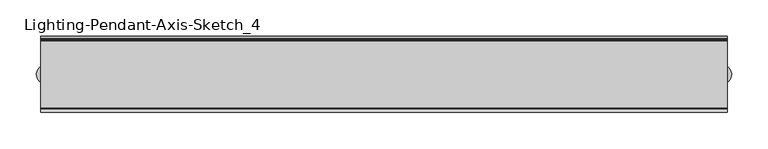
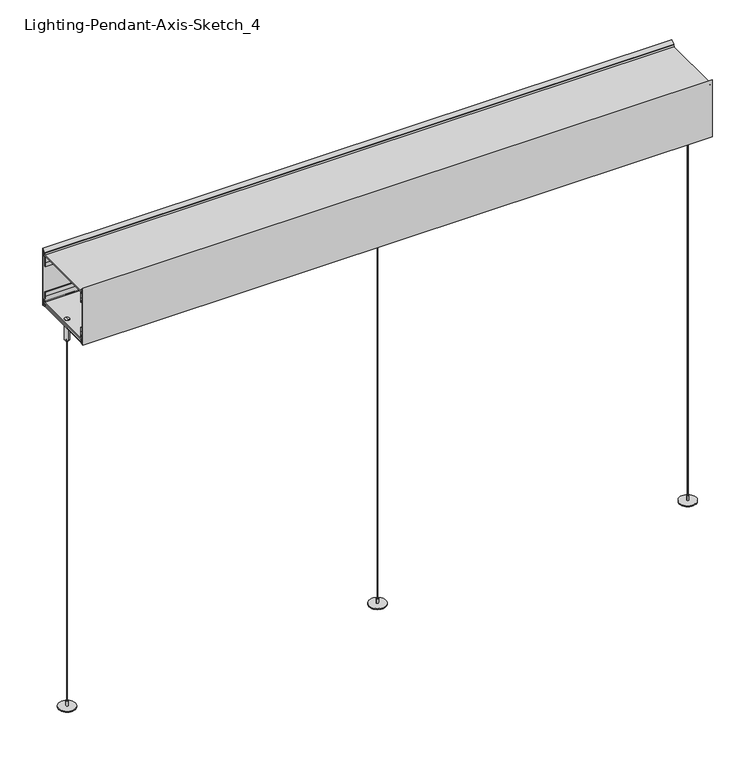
"""IFC4 building model written with IfcOpenShell, lengths in millimetres: light fixture geometry, Lighting-Pendant-Axis-Sketch_4 : SK4PDI-1400-1400-SO-SO-80-35."""

from ifc_helpers import new_model, si_unit, point, frame, frame_2d, origin, origin_with_axes, origin_2d, place, context, project, spatial, polyline, circle_curve, trimmed, segment, composite_curve, outline, extrude, source, transform, mapped, element, save
from ifc_brep_helpers import plane_surface, cylinder_surface, advanced_brep


def lighting_pendant_axis_sketch_4_24adb191(model_context):
    return source(origin(), model_context, "Body", "SolidModel", [
        extrude(outline(composite_curve([segment(trimmed(circle_curve(frame_2d((466.09, 0.0)), 0.396875), [point((465.693125, 0.0))], [point((466.486875, 0.0))], False, "CARTESIAN"), True, "CONTINUOUS"), segment(trimmed(circle_curve(frame_2d((466.09, 0.0)), 0.396875), [point((466.486875, 0.0))], [point((465.693125, 0.0))], False, "CARTESIAN"), True, "CONTINUOUS")], self_intersect=False)), frame((0.0, 0.0, 9.525), z_axis=(0.0, 0.0, 1.0), x_axis=(1.0, 0.0, 0.0)), (0.0, 0.0, 1.0), 600.075),
        advanced_brep(
        [(466.09, -1.2, 583.1008521), (466.09, -2.95625, 583.1008521), (466.09, 2.95625, 583.1008521), (466.09, 1.2, 583.1008521), (466.09, -1.2, 580.2508521), (466.09, 1.2, 580.2508521), (466.09, 0.0, 580.2508521), (466.09, -3.75, 616.0364681), (466.09, 0.0, 616.0364681), (466.09, 3.75, 616.0364681), (466.09, -3.75, 584.1008521), (466.09, 3.75, 584.1008521), (466.09, -2.95625, 584.1008521), (466.09, 2.95625, 584.1008521)],
        [
            (0, 1),
            (1, 2, circle_curve(frame((466.09, 0.0, 583.1008521), z_axis=(0.0, 0.0, -1.0), x_axis=(0.0, 1.0, 0.0)), 2.95625)),
            (2, 3),
            (3, 0, circle_curve(frame((466.09, 0.0, 583.1008521), z_axis=(0.0, 0.0, 1.0), x_axis=(0.0, 1.0, 0.0)), 1.2)),
            (2, 1, circle_curve(frame((466.09, 0.0, 583.1008521), z_axis=(0.0, 0.0, -1.0), x_axis=(0.0, 1.0, 0.0)), 2.95625)),
            (0, 3, circle_curve(frame((466.09, 0.0, 583.1008521), z_axis=(0.0, 0.0, 1.0), x_axis=(0.0, 1.0, 0.0)), 1.2)),
            (4, 0),
            (3, 5),
            (5, 4, circle_curve(frame((466.09, 0.0, 580.2508521), z_axis=(0.0, 0.0, 1.0), x_axis=(0.0, 1.0, 0.0)), 1.2)),
            (4, 5, circle_curve(frame((466.09, 0.0, 580.2508521), z_axis=(0.0, 0.0, 1.0), x_axis=(0.0, 1.0, 0.0)), 1.2)),
            (6, 4),
            (5, 6),
            (7, 8),
            (8, 9),
            (9, 7, circle_curve(frame((466.09, 0.0, 616.0364681), z_axis=(0.0, 0.0, 1.0), x_axis=(0.0, 1.0, 0.0)), 3.75)),
            (7, 9, circle_curve(frame((466.09, 0.0, 616.0364681), z_axis=(0.0, 0.0, 1.0), x_axis=(0.0, 1.0, 0.0)), 3.75)),
            (10, 7),
            (9, 11),
            (11, 10, circle_curve(frame((466.09, 0.0, 584.1008521), z_axis=(0.0, 0.0, 1.0), x_axis=(0.0, 1.0, 0.0)), 3.75)),
            (10, 11, circle_curve(frame((466.09, 0.0, 584.1008521), z_axis=(0.0, 0.0, 1.0), x_axis=(0.0, 1.0, 0.0)), 3.75)),
            (12, 10),
            (11, 13),
            (13, 12, circle_curve(frame((466.09, 0.0, 584.1008521), z_axis=(0.0, 0.0, 1.0), x_axis=(0.0, 1.0, 0.0)), 2.95625)),
            (12, 13, circle_curve(frame((466.09, 0.0, 584.1008521), z_axis=(0.0, 0.0, 1.0), x_axis=(0.0, 1.0, 0.0)), 2.95625)),
            (1, 12),
            (13, 2),
        ],
        [
            plane_surface(frame((466.09, 0.0, 583.1008521), z_axis=(0.0, 0.0, -1.0), x_axis=(0.0, 1.0, 0.0))),
            cylinder_surface(frame((466.09, 0.0, 2648.6067943), z_axis=(0.0, 0.0, -1.0), x_axis=(0.0, 1.0, 0.0)), 1.2),
            plane_surface(frame((466.09, 0.0, 580.2508521), z_axis=(0.0, 0.0, -1.0), x_axis=(0.0, 1.0, 0.0))),
            plane_surface(frame((466.09, 0.0, 616.0364681), z_axis=(0.0, 0.0, 1.0), x_axis=(0.0, 1.0, 0.0))),
            cylinder_surface(frame((466.09, 0.0, 2648.6067943), z_axis=(0.0, 0.0, -1.0), x_axis=(0.0, 1.0, 0.0)), 3.75),
            plane_surface(frame((466.09, 0.0, 584.1008521), z_axis=(0.0, 0.0, -1.0), x_axis=(0.0, 1.0, 0.0))),
            cylinder_surface(frame((466.09, 0.0, 2648.6067943), z_axis=(0.0, 0.0, -1.0), x_axis=(0.0, 1.0, 0.0)), 2.95625),
        ],
        [
            (0, [[1, 2, 3, 4]]),
            (0, [[-3, 5, -1, 6]]),
            (1, [[7, -4, 8, 9]]),
            (1, [[-8, -6, -7, 10]]),
            (2, [[11, -9, 12]]),
            (2, [[-12, -10, -11]]),
            (3, [[13, 14, 15]]),
            (3, [[-14, -13, 16]]),
            (4, [[17, -15, 18, 19]]),
            (4, [[-18, -16, -17, 20]]),
            (5, [[21, -19, 22, 23]]),
            (5, [[-22, -20, -21, 24]]),
            (6, [[25, -23, 26, -2]]),
            (6, [[-26, -24, -25, -5]]),
        ],
    ),
        extrude(outline(composite_curve([segment(trimmed(circle_curve(frame_2d((466.09, 0.0)), 12.7), [point((453.39, 0.0))], [point((478.79, 0.0))], False, "CARTESIAN"), True, "CONTINUOUS"), segment(trimmed(circle_curve(frame_2d((466.09, 0.0)), 12.7), [point((478.79, 0.0))], [point((453.39, 0.0))], False, "CARTESIAN"), True, "CONTINUOUS")], self_intersect=False)), origin_with_axes(), (0.0, 0.0, 1.0), 1.5875),
        extrude(outline(composite_curve([segment(trimmed(circle_curve(frame_2d((466.09, 0.0)), 1.5875), [point((464.5025, 0.0))], [point((467.6775, 0.0))], False, "CARTESIAN"), True, "CONTINUOUS"), segment(trimmed(circle_curve(frame_2d((466.09, 0.0)), 1.5875), [point((467.6775, 0.0))], [point((464.5025, 0.0))], False, "CARTESIAN"), True, "CONTINUOUS")], self_intersect=False)), frame((0.0, 0.0, 1.5875), z_axis=(0.0, 0.0, 1.0), x_axis=(1.0, 0.0, 0.0)), (0.0, 0.0, 1.0), 7.9375),
        extrude(outline(composite_curve([segment(trimmed(circle_curve(frame_2d((-466.09, 0.0)), 0.396875), [point((-466.486875, 0.0))], [point((-465.693125, 0.0))], False, "CARTESIAN"), True, "CONTINUOUS"), segment(trimmed(circle_curve(frame_2d((-466.09, 0.0)), 0.396875), [point((-465.693125, 0.0))], [point((-466.486875, 0.0))], False, "CARTESIAN"), True, "CONTINUOUS")], self_intersect=False)), frame((0.0, 0.0, 9.525), z_axis=(0.0, 0.0, 1.0), x_axis=(1.0, 0.0, 0.0)), (0.0, 0.0, 1.0), 600.075),
        advanced_brep(
        [(-466.09, -1.2, 583.1008521), (-466.09, -2.95625, 583.1008521), (-466.09, 2.95625, 583.1008521), (-466.09, 1.2, 583.1008521), (-466.09, -1.2, 580.2508521), (-466.09, 1.2, 580.2508521), (-466.09, 0.0, 580.2508521), (-466.09, -3.75, 616.0364681), (-466.09, 0.0, 616.0364681), (-466.09, 3.75, 616.0364681), (-466.09, -3.75, 584.1008521), (-466.09, 3.75, 584.1008521), (-466.09, -2.95625, 584.1008521), (-466.09, 2.95625, 584.1008521)],
        [
            (0, 1),
            (1, 2, circle_curve(frame((-466.09, 0.0, 583.1008521), z_axis=(0.0, 0.0, -1.0), x_axis=(0.0, 1.0, 0.0)), 2.95625)),
            (2, 3),
            (3, 0, circle_curve(frame((-466.09, 0.0, 583.1008521), z_axis=(0.0, 0.0, 1.0), x_axis=(0.0, 1.0, 0.0)), 1.2)),
            (2, 1, circle_curve(frame((-466.09, 0.0, 583.1008521), z_axis=(0.0, 0.0, -1.0), x_axis=(0.0, 1.0, 0.0)), 2.95625)),
            (0, 3, circle_curve(frame((-466.09, 0.0, 583.1008521), z_axis=(0.0, 0.0, 1.0), x_axis=(0.0, 1.0, 0.0)), 1.2)),
            (4, 0),
            (3, 5),
            (5, 4, circle_curve(frame((-466.09, 0.0, 580.2508521), z_axis=(0.0, 0.0, 1.0), x_axis=(0.0, 1.0, 0.0)), 1.2)),
            (4, 5, circle_curve(frame((-466.09, 0.0, 580.2508521), z_axis=(0.0, 0.0, 1.0), x_axis=(0.0, 1.0, 0.0)), 1.2)),
            (6, 4),
            (5, 6),
            (7, 8),
            (8, 9),
            (9, 7, circle_curve(frame((-466.09, 0.0, 616.0364681), z_axis=(0.0, 0.0, 1.0), x_axis=(0.0, 1.0, 0.0)), 3.75)),
            (7, 9, circle_curve(frame((-466.09, 0.0, 616.0364681), z_axis=(0.0, 0.0, 1.0), x_axis=(0.0, 1.0, 0.0)), 3.75)),
            (10, 7),
            (9, 11),
            (11, 10, circle_curve(frame((-466.09, 0.0, 584.1008521), z_axis=(0.0, 0.0, 1.0), x_axis=(0.0, 1.0, 0.0)), 3.75)),
            (10, 11, circle_curve(frame((-466.09, 0.0, 584.1008521), z_axis=(0.0, 0.0, 1.0), x_axis=(0.0, 1.0, 0.0)), 3.75)),
            (12, 10),
            (11, 13),
            (13, 12, circle_curve(frame((-466.09, 0.0, 584.1008521), z_axis=(0.0, 0.0, 1.0), x_axis=(0.0, 1.0, 0.0)), 2.95625)),
            (12, 13, circle_curve(frame((-466.09, 0.0, 584.1008521), z_axis=(0.0, 0.0, 1.0), x_axis=(0.0, 1.0, 0.0)), 2.95625)),
            (1, 12),
            (13, 2),
        ],
        [
            plane_surface(frame((-466.09, 0.0, 583.1008521), z_axis=(0.0, 0.0, -1.0), x_axis=(0.0, 1.0, 0.0))),
            cylinder_surface(frame((-466.09, 0.0, 2648.6067943), z_axis=(0.0, 0.0, -1.0), x_axis=(0.0, 1.0, 0.0)), 1.2),
            plane_surface(frame((-466.09, 0.0, 580.2508521), z_axis=(0.0, 0.0, -1.0), x_axis=(0.0, 1.0, 0.0))),
            plane_surface(frame((-466.09, 0.0, 616.0364681), z_axis=(0.0, 0.0, 1.0), x_axis=(0.0, 1.0, 0.0))),
            cylinder_surface(frame((-466.09, 0.0, 2648.6067943), z_axis=(0.0, 0.0, -1.0), x_axis=(0.0, 1.0, 0.0)), 3.75),
            plane_surface(frame((-466.09, 0.0, 584.1008521), z_axis=(0.0, 0.0, -1.0), x_axis=(0.0, 1.0, 0.0))),
            cylinder_surface(frame((-466.09, 0.0, 2648.6067943), z_axis=(0.0, 0.0, -1.0), x_axis=(0.0, 1.0, 0.0)), 2.95625),
        ],
        [
            (0, [[1, 2, 3, 4]]),
            (0, [[-3, 5, -1, 6]]),
            (1, [[7, -4, 8, 9]]),
            (1, [[-8, -6, -7, 10]]),
            (2, [[11, -9, 12]]),
            (2, [[-12, -10, -11]]),
            (3, [[13, 14, 15]]),
            (3, [[-14, -13, 16]]),
            (4, [[17, -15, 18, 19]]),
            (4, [[-18, -16, -17, 20]]),
            (5, [[21, -19, 22, 23]]),
            (5, [[-22, -20, -21, 24]]),
            (6, [[25, -23, 26, -2]]),
            (6, [[-26, -24, -25, -5]]),
        ],
    ),
        extrude(outline(composite_curve([segment(trimmed(circle_curve(frame_2d((-466.09, 0.0)), 12.7), [point((-478.79, 0.0))], [point((-453.39, 0.0))], False, "CARTESIAN"), True, "CONTINUOUS"), segment(trimmed(circle_curve(frame_2d((-466.09, 0.0)), 12.7), [point((-453.39, 0.0))], [point((-478.79, 0.0))], False, "CARTESIAN"), True, "CONTINUOUS")], self_intersect=False)), origin_with_axes(), (0.0, 0.0, 1.0), 1.5875),
        extrude(outline(composite_curve([segment(trimmed(circle_curve(frame_2d((-466.09, 0.0)), 1.5875), [point((-467.6775, 0.0))], [point((-464.5025, 0.0))], False, "CARTESIAN"), True, "CONTINUOUS"), segment(trimmed(circle_curve(frame_2d((-466.09, 0.0)), 1.5875), [point((-464.5025, 0.0))], [point((-467.6775, 0.0))], False, "CARTESIAN"), True, "CONTINUOUS")], self_intersect=False)), frame((0.0, 0.0, 1.5875), z_axis=(0.0, 0.0, 1.0), x_axis=(1.0, 0.0, 0.0)), (0.0, 0.0, 1.0), 7.9375),
        extrude(outline(composite_curve([segment(trimmed(circle_curve(origin_2d(), 0.396875), [point((-0.396875, 0.0))], [point((0.396875, 0.0))], False, "CARTESIAN"), True, "CONTINUOUS"), segment(trimmed(circle_curve(origin_2d(), 0.396875), [point((0.396875, 0.0))], [point((-0.396875, 0.0))], False, "CARTESIAN"), True, "CONTINUOUS")], self_intersect=False)), frame((0.0, 0.0, 9.525), z_axis=(0.0, 0.0, 1.0), x_axis=(1.0, 0.0, 0.0)), (0.0, 0.0, 1.0), 600.075),
        advanced_brep(
        [(0.0, -1.2, 583.1008521), (0.0, -2.95625, 583.1008521), (0.0, 2.95625, 583.1008521), (0.0, 1.2, 583.1008521), (0.0, -1.2, 580.2508521), (0.0, 1.2, 580.2508521), (0.0, 0.0, 580.2508521), (0.0, -3.75, 616.0364681), (0.0, 0.0, 616.0364681), (0.0, 3.75, 616.0364681), (0.0, -3.75, 584.1008521), (0.0, 3.75, 584.1008521), (0.0, -2.95625, 584.1008521), (0.0, 2.95625, 584.1008521)],
        [
            (0, 1),
            (1, 2, circle_curve(frame((0.0, 0.0, 583.1008521), z_axis=(0.0, 0.0, -1.0), x_axis=(0.0, 1.0, 0.0)), 2.95625)),
            (2, 3),
            (3, 0, circle_curve(frame((0.0, 0.0, 583.1008521), z_axis=(0.0, 0.0, 1.0), x_axis=(0.0, 1.0, 0.0)), 1.2)),
            (2, 1, circle_curve(frame((0.0, 0.0, 583.1008521), z_axis=(0.0, 0.0, -1.0), x_axis=(0.0, 1.0, 0.0)), 2.95625)),
            (0, 3, circle_curve(frame((0.0, 0.0, 583.1008521), z_axis=(0.0, 0.0, 1.0), x_axis=(0.0, 1.0, 0.0)), 1.2)),
            (4, 0),
            (3, 5),
            (5, 4, circle_curve(frame((0.0, 0.0, 580.2508521), z_axis=(0.0, 0.0, 1.0), x_axis=(0.0, 1.0, 0.0)), 1.2)),
            (4, 5, circle_curve(frame((0.0, 0.0, 580.2508521), z_axis=(0.0, 0.0, 1.0), x_axis=(0.0, 1.0, 0.0)), 1.2)),
            (6, 4),
            (5, 6),
            (7, 8),
            (8, 9),
            (9, 7, circle_curve(frame((0.0, 0.0, 616.0364681), z_axis=(0.0, 0.0, 1.0), x_axis=(0.0, 1.0, 0.0)), 3.75)),
            (7, 9, circle_curve(frame((0.0, 0.0, 616.0364681), z_axis=(0.0, 0.0, 1.0), x_axis=(0.0, 1.0, 0.0)), 3.75)),
            (10, 7),
            (9, 11),
            (11, 10, circle_curve(frame((0.0, 0.0, 584.1008521), z_axis=(0.0, 0.0, 1.0), x_axis=(0.0, 1.0, 0.0)), 3.75)),
            (10, 11, circle_curve(frame((0.0, 0.0, 584.1008521), z_axis=(0.0, 0.0, 1.0), x_axis=(0.0, 1.0, 0.0)), 3.75)),
            (12, 10),
            (11, 13),
            (13, 12, circle_curve(frame((0.0, 0.0, 584.1008521), z_axis=(0.0, 0.0, 1.0), x_axis=(0.0, 1.0, 0.0)), 2.95625)),
            (12, 13, circle_curve(frame((0.0, 0.0, 584.1008521), z_axis=(0.0, 0.0, 1.0), x_axis=(0.0, 1.0, 0.0)), 2.95625)),
            (1, 12),
            (13, 2),
        ],
        [
            plane_surface(frame((0.0, 0.0, 583.1008521), z_axis=(0.0, 0.0, -1.0), x_axis=(0.0, 1.0, 0.0))),
            cylinder_surface(frame((0.0, 0.0, 2648.6067943), z_axis=(0.0, 0.0, -1.0), x_axis=(0.0, 1.0, 0.0)), 1.2),
            plane_surface(frame((0.0, 0.0, 580.2508521), z_axis=(0.0, 0.0, -1.0), x_axis=(0.0, 1.0, 0.0))),
            plane_surface(frame((0.0, 0.0, 616.0364681), z_axis=(0.0, 0.0, 1.0), x_axis=(0.0, 1.0, 0.0))),
            cylinder_surface(frame((0.0, 0.0, 2648.6067943), z_axis=(0.0, 0.0, -1.0), x_axis=(0.0, 1.0, 0.0)), 3.75),
            plane_surface(frame((0.0, 0.0, 584.1008521), z_axis=(0.0, 0.0, -1.0), x_axis=(0.0, 1.0, 0.0))),
            cylinder_surface(frame((0.0, 0.0, 2648.6067943), z_axis=(0.0, 0.0, -1.0), x_axis=(0.0, 1.0, 0.0)), 2.95625),
        ],
        [
            (0, [[1, 2, 3, 4]]),
            (0, [[-3, 5, -1, 6]]),
            (1, [[7, -4, 8, 9]]),
            (1, [[-8, -6, -7, 10]]),
            (2, [[11, -9, 12]]),
            (2, [[-12, -10, -11]]),
            (3, [[13, 14, 15]]),
            (3, [[-14, -13, 16]]),
            (4, [[17, -15, 18, 19]]),
            (4, [[-18, -16, -17, 20]]),
            (5, [[21, -19, 22, 23]]),
            (5, [[-22, -20, -21, 24]]),
            (6, [[25, -23, 26, -2]]),
            (6, [[-26, -24, -25, -5]]),
        ],
    ),
        extrude(outline(composite_curve([segment(trimmed(circle_curve(origin_2d(), 12.7), [point((-12.7, 0.0))], [point((12.7, 0.0))], False, "CARTESIAN"), True, "CONTINUOUS"), segment(trimmed(circle_curve(origin_2d(), 12.7), [point((12.7, 0.0))], [point((-12.7, 0.0))], False, "CARTESIAN"), True, "CONTINUOUS")], self_intersect=False)), origin_with_axes(), (0.0, 0.0, 1.0), 1.5875),
        extrude(outline(composite_curve([segment(trimmed(circle_curve(origin_2d(), 1.5875), [point((-1.5875, 0.0))], [point((1.5875, 0.0))], False, "CARTESIAN"), True, "CONTINUOUS"), segment(trimmed(circle_curve(origin_2d(), 1.5875), [point((1.5875, 0.0))], [point((-1.5875, 0.0))], False, "CARTESIAN"), True, "CONTINUOUS")], self_intersect=False)), frame((0.0, 0.0, 1.5875), z_axis=(0.0, 0.0, 1.0), x_axis=(1.0, 0.0, 0.0)), (0.0, 0.0, 1.0), 7.9375),
        extrude(outline(polyline([(-472.44, 48.2599987), (472.44, 48.2599987), (472.44, -48.2599977), (-472.44, -48.2599977), (-472.44, 48.2599987)])), frame((0.0, 0.0, 689.9966516), z_axis=(0.0, 0.0, 1.0), x_axis=(1.0, 0.0, 0.0)), (0.0, 0.0, 1.0), 1.2700021),
        extrude(outline(polyline([(-472.44, 48.2599987), (472.44, 48.2599987), (472.44, -48.2599977), (-472.44, -48.2599977), (-472.44, 48.2599987)])), frame((0.0, 0.0, 614.5727648), z_axis=(0.0, 0.0, 1.0), x_axis=(1.0, 0.0, 0.0)), (0.0, 0.0, 1.0), 1.27),
        extrude(outline(polyline([(52.387502, 608.1183333), (48.8649121, 608.1183333), (47.3074984, 609.6312495), (47.3074984, 611.2933333), (48.5749867, 611.2933333), (48.5749867, 610.0233333), (50.4824984, 610.0233333), (50.4824984, 694.1255577), (47.9424983, 694.1255577), (52.387502, 698.5705614), (52.387502, 608.1183333)])), frame((-472.44, 0.0, 0.0), z_axis=(1.0, 0.0, 0.0), x_axis=(0.0, 1.0, 0.0)), (0.0, 0.0, 1.0), 944.88),
        extrude(outline(composite_curve([segment(trimmed(circle_curve(frame_2d((48.3340208, 615.7030556)), 1.6193127), [point((47.7623797, 617.2181133))], [point((49.9533335, 615.7030556))], False, "CARTESIAN"), True, "CONTINUOUS"), segment(polyline([(49.9533335, 615.7030556), (49.9180536, 613.3747222)]), True, "CONTINUOUS"), segment(trimmed(circle_curve(frame_2d((48.7732449, 613.3920688)), 1.1449401), [point((49.9180536, 613.3747222))], [point((48.2952793, 612.3516667))], False, "CARTESIAN"), True, "CONTINUOUS"), segment(polyline([(48.2952793, 612.3516667), (46.5723819, 614.1933833), (48.9062894, 614.1085157), (48.9655543, 615.7383333)]), True, "CONTINUOUS"), segment(trimmed(circle_curve(frame_2d((48.3048304, 615.63155)), 0.6692972), [point((48.9655543, 615.7383333))], [point((48.3048304, 616.3008472))], True, "CARTESIAN"), True, "CONTINUOUS"), segment(polyline([(48.3048304, 616.3008472), (46.8043106, 616.3008472), (46.2138897, 626.1805556), (46.1433321, 632.7774986), (47.1663883, 632.7774986), (47.203689, 626.6227718), (47.7623797, 617.2181133)]), True, "CONTINUOUS")], self_intersect=False)), frame((-472.44, 0.0, 0.0), z_axis=(1.0, 0.0, 0.0), x_axis=(0.0, 1.0, 0.0)), (0.0, 0.0, 1.0), 944.88),
        extrude(outline(composite_curve([segment(polyline([(47.1044268, 679.4782704), (47.3427772, 672.9236111), (46.318589, 672.9236111), (46.1087781, 679.4627439), (46.305025, 689.3731705), (48.4283489, 689.5430339), (48.3121579, 691.6345118), (45.9802057, 691.5049613), (47.6250008, 693.3847222)]), True, "CONTINUOUS"), segment(trimmed(circle_curve(frame_2d((48.1406669, 692.3629889)), 1.144487), [point((47.6250008, 693.3847222))], [point((49.2830578, 692.4322236))], False, "CARTESIAN"), True, "CONTINUOUS"), segment(polyline([(49.2830578, 692.4322236), (49.4241668, 690.1038875)]), True, "CONTINUOUS"), segment(trimmed(circle_curve(frame_2d((47.6971346, 689.9992206)), 1.730201), [point((49.4241668, 690.1038875))], [point((47.2795148, 688.3201765))], False, "CARTESIAN"), True, "CONTINUOUS"), segment(polyline([(47.2795148, 688.3201765), (47.1044268, 679.4782704)]), True, "CONTINUOUS")], self_intersect=False)), frame((-472.44, 0.0, 0.0), z_axis=(1.0, 0.0, 0.0), x_axis=(0.0, 1.0, 0.0)), (0.0, 0.0, 1.0), 944.88),
        extrude(outline(polyline([(-52.387502, 608.1183333), (-52.387502, 698.5705614), (-47.9424983, 694.1255577), (-50.4824984, 694.1255577), (-50.4824984, 610.0233333), (-48.5749867, 610.0233333), (-48.5749867, 611.2933333), (-47.3074984, 611.2933333), (-47.3074984, 609.6312495), (-48.8649121, 608.1183333), (-52.387502, 608.1183333)])), frame((-472.44, 0.0, 0.0), z_axis=(1.0, 0.0, 0.0), x_axis=(0.0, 1.0, 0.0)), (0.0, 0.0, 1.0), 944.88),
        extrude(outline(composite_curve([segment(polyline([(-47.7623797, 617.2181133), (-47.203689, 626.6227718), (-47.1663883, 632.7774986), (-46.1433321, 632.7774986), (-46.2138897, 626.1805556), (-46.8043106, 616.3008472), (-48.3048304, 616.3008472)]), True, "CONTINUOUS"), segment(trimmed(circle_curve(frame_2d((-48.3048304, 615.63155)), 0.6692972), [point((-48.3048304, 616.3008472))], [point((-48.9655543, 615.7383333))], True, "CARTESIAN"), True, "CONTINUOUS"), segment(polyline([(-48.9655543, 615.7383333), (-48.9655543, 614.2021029), (-46.6913645, 614.0661951), (-48.2952793, 612.3516667)]), True, "CONTINUOUS"), segment(trimmed(circle_curve(frame_2d((-48.7732449, 613.3920688)), 1.1449401), [point((-48.2952793, 612.3516667))], [point((-49.9180536, 613.3747222))], False, "CARTESIAN"), True, "CONTINUOUS"), segment(polyline([(-49.9180536, 613.3747222), (-49.9533335, 615.7030556)]), True, "CONTINUOUS"), segment(trimmed(circle_curve(frame_2d((-48.3340208, 615.7030556)), 1.6193127), [point((-49.9533335, 615.7030556))], [point((-47.7623797, 617.2181133))], False, "CARTESIAN"), True, "CONTINUOUS")], self_intersect=False)), frame((-472.44, 0.0, 0.0), z_axis=(1.0, 0.0, 0.0), x_axis=(0.0, 1.0, 0.0)), (0.0, 0.0, 1.0), 944.88),
        extrude(outline(composite_curve([segment(polyline([(-47.1044268, 679.4782704), (-47.2795148, 688.3201765)]), True, "CONTINUOUS"), segment(trimmed(circle_curve(frame_2d((-47.6971346, 689.9992206)), 1.730201), [point((-47.2795148, 688.3201765))], [point((-49.4241668, 690.1038875))], False, "CARTESIAN"), True, "CONTINUOUS"), segment(polyline([(-49.4241668, 690.1038875), (-49.2830578, 692.4322236)]), True, "CONTINUOUS"), segment(trimmed(circle_curve(frame_2d((-48.1406669, 692.3629889)), 1.144487), [point((-49.2830578, 692.4322236))], [point((-47.6250008, 693.3847222))], False, "CARTESIAN"), True, "CONTINUOUS"), segment(polyline([(-47.6250008, 693.3847222), (-45.9802057, 691.5049613), (-48.3121579, 691.6345118), (-48.4283489, 689.5430339), (-46.305025, 689.3731705), (-46.1087781, 679.4627439), (-46.318589, 672.9236111), (-47.3427772, 672.9236111), (-47.1044268, 679.4782704)]), True, "CONTINUOUS")], self_intersect=False)), frame((-472.44, 0.0, 0.0), z_axis=(1.0, 0.0, 0.0), x_axis=(0.0, 1.0, 0.0)), (0.0, 0.0, 1.0), 944.88),
        extrude(outline(polyline([(-472.44, 47.3074984), (472.44, 47.3074984), (472.44, -47.3074984), (-472.44, -47.3074984), (-472.44, 47.3074984)])), frame((0.0, 0.0, 609.6312495), z_axis=(0.0, 0.0, 1.0), x_axis=(1.0, 0.0, 0.0)), (0.0, 0.0, 1.0), 1.6620839),
    ])


if __name__ == "__main__":
    model = new_model("IFC4")
    model_context = context("Model", 3, world=origin())
    ifc_project = project(units=[si_unit("LENGTHUNIT", "METRE", prefix="MILLI")], contexts=[model_context])
    site = spatial("IfcSite", under=ifc_project)
    building = spatial("IfcBuilding", under=site)
    placement = place(None, origin())
    lighting_pendant_axis_sketch_4_shape = lighting_pendant_axis_sketch_4_24adb191(model_context)
    element("IfcLightFixture", 1, ObjectType="Lighting-Pendant-Axis-Sketch_4 : SK4PDI-1400-1400-SO-SO-80-35", at=placement, inside=building, context=model_context, shape_type="MappedRepresentation", body=[
        mapped(lighting_pendant_axis_sketch_4_shape, transform((0.0, 0.0, 0.0), x_axis=(1.0, 0.0, 0.0), y_axis=(0.0, 1.0, 0.0), z_axis=(0.0, 0.0, 1.0))),
    ])
    save(model, "model.ifc")
